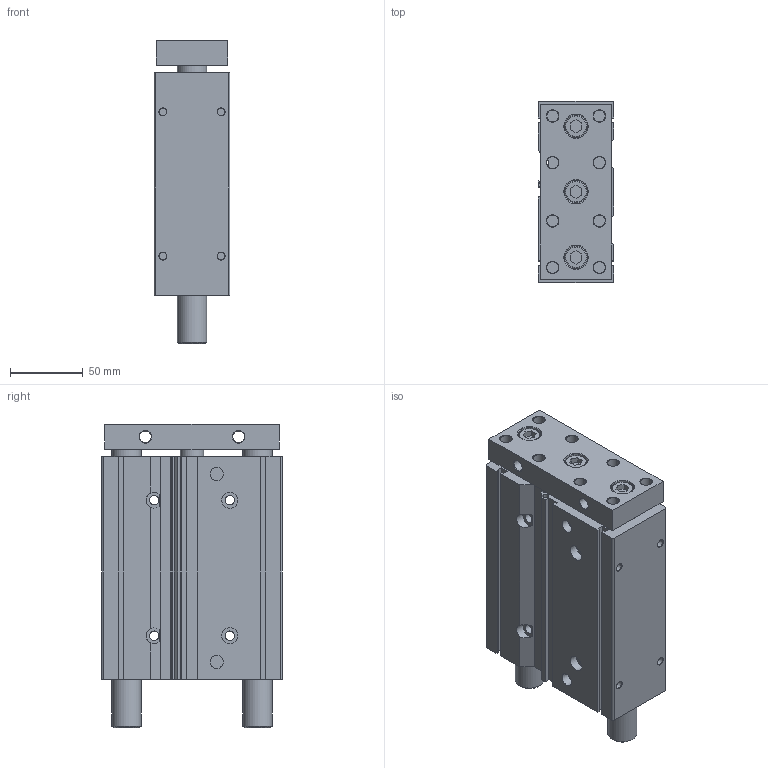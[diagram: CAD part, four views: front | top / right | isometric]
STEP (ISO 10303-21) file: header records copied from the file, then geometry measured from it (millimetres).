
FILE_DESCRIPTION((''),'2;1');
FILE_NAME('I:\3D電子目錄\氣缸\TB(U)\TB(U)40\TB(U)40\TB(U)40x100.stp','2007-08-06T09:06:42',('Administrator'),(''),'Autodesk Inventor 2008','Autodesk Inventor 2008','');
FILE_SCHEMA(('AUTOMOTIVE_DESIGN { 1 0 10303 214 1 1 1 1 }'));
Length unit declared in the file: millimetre
Products named in the file (1): TB(U)40X100
Bounding box: 52 x 124 x 208 mm (x, y, z)
Volume: 1023240.8 mm3; surface area: 116046.3 mm2
Topology: 1 solids, 1 shells, 218 faces, 500 edges, 320 vertices
Faces by surface type: plane 104, cylinder 52, cone 37, bspline 22, torus 3
Full cylindrical faces by diameter (mm): 5 x4, 6 x4, 6.5 x4, 8 x10, 9 x2, 11 x6, 15 x3, 16 x4, 20 x4, 28 x2, 35 x1
Entity records: 5822 total; most frequent: CARTESIAN_POINT 1073, DIRECTION 962, ORIENTED_EDGE 824, EDGE_CURVE 412, EDGE_LOOP 374, AXIS2_PLACEMENT_3D 353, VERTEX_POINT 320, VECTOR 256
